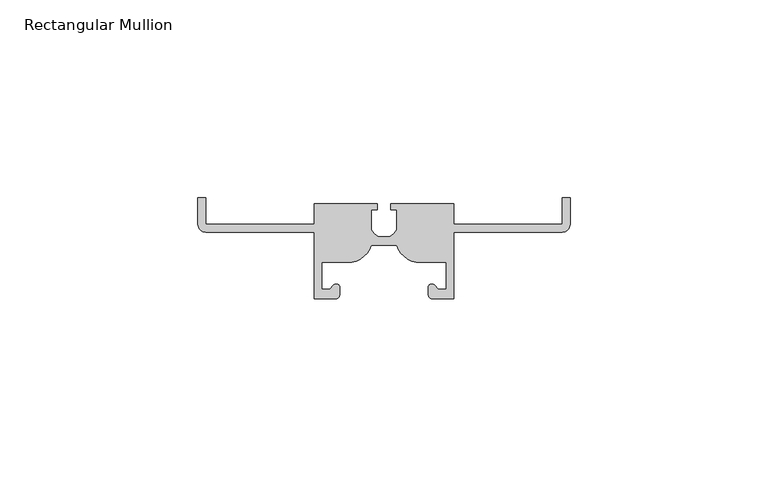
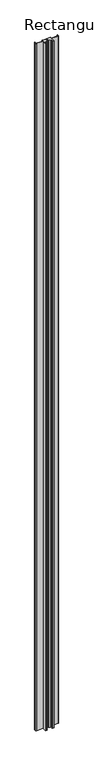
"""IFC4 building model written with IfcOpenShell, lengths in millimetres: member geometry, Rectangular Mullion : LD.0240_renson."""

from ifc_helpers import new_model, si_unit, point, frame, frame_2d, origin, place, context, project, spatial, polyline, circle_curve, trimmed, segment, composite_curve, outline, extrude, source, transform, mapped, element, save


def rectangular_mullion_af4e7430(model_context):
    return source(origin(), model_context, "Body", "SweptSolid", [
        extrude(outline(composite_curve([segment(polyline([(-94.0, -7.6257936), (-94.0, -1.0), (-91.9912581, -1.0), (-91.9912581, -7.611542), (-64.6599764, -7.611542), (-64.6599764, -2.5065082), (-48.6945192, -2.5065082), (-48.6945192, -4.0065082), (-50.1741489, -4.0065082), (-50.1741489, -9.0065082)]), True, "CONTINUOUS"), segment(trimmed(circle_curve(frame_2d((-47.0039792, -7.6048296)), 3.4662197), [point((-50.1741489, -9.0065082))], [point((-48.4056577, -10.7749993))], True, "CARTESIAN"), True, "CONTINUOUS"), segment(polyline([(-48.4056577, -10.7749993), (-45.5943423, -10.7749993)]), True, "CONTINUOUS"), segment(trimmed(circle_curve(frame_2d((-46.9960208, -7.6048296)), 3.4662197), [point((-45.5943423, -10.7749993))], [point((-43.8258511, -9.0065082))], True, "CARTESIAN"), True, "CONTINUOUS"), segment(polyline([(-43.8258511, -9.0065082), (-43.8258511, -4.0065082), (-45.3054808, -4.0065082), (-45.3054808, -2.5065082), (-29.3400236, -2.5065082), (-29.3400236, -7.611542), (-2.0087419, -7.611542), (-2.0087419, -1.0), (0.0, -1.0), (0.0, -7.6257936)]), True, "CONTINUOUS"), segment(trimmed(circle_curve(frame_2d((-2.0087419, -7.6257936)), 2.0087419), [point((0.0, -7.6257936))], [point((-2.0087419, -9.6345355))], False, "CARTESIAN"), True, "CONTINUOUS"), segment(polyline([(-2.0087419, -9.6345355), (-29.3400236, -9.6345355), (-29.3400236, -26.5), (-34.6531539, -26.5)]), True, "CONTINUOUS"), segment(trimmed(circle_curve(frame_2d((-34.6531539, -25.3135005)), 1.1864995), [point((-34.6531539, -26.5))], [point((-35.8396534, -25.3135005))], False, "CARTESIAN"), True, "CONTINUOUS"), segment(polyline([(-35.8396534, -25.3135005), (-35.8396534, -23.3009057)]), True, "CONTINUOUS"), segment(trimmed(circle_curve(frame_2d((-34.8772851, -23.8515635)), 1.1087726), [point((-35.8396534, -23.3009057))], [point((-34.1385729, -23.0247134))], False, "CARTESIAN"), True, "CONTINUOUS"), segment(polyline([(-34.1385729, -23.0247134), (-33.2490245, -24.1232143), (-31.3265874, -24.1232143), (-31.3265874, -17.2531745), (-38.8631802, -17.2531745)]), True, "CONTINUOUS"), segment(trimmed(circle_curve(frame_2d((-37.632073, -10.8255058)), 6.5445053), [point((-38.8631802, -17.2531745))], [point((-43.8258511, -12.9391905))], False, "CARTESIAN"), True, "CONTINUOUS"), segment(polyline([(-43.8258511, -12.9391905), (-50.1741489, -12.9391905)]), True, "CONTINUOUS"), segment(trimmed(circle_curve(frame_2d((-56.367927, -10.8255058)), 6.5445053), [point((-50.1741489, -12.9391905))], [point((-55.1368198, -17.2531745))], False, "CARTESIAN"), True, "CONTINUOUS"), segment(polyline([(-55.1368198, -17.2531745), (-62.6734126, -17.2531745), (-62.6734126, -24.1232143), (-60.7509755, -24.1232143), (-59.8614271, -23.0247134)]), True, "CONTINUOUS"), segment(trimmed(circle_curve(frame_2d((-59.1227149, -23.8515635)), 1.1087726), [point((-59.8614271, -23.0247134))], [point((-58.1603466, -23.3009057))], False, "CARTESIAN"), True, "CONTINUOUS"), segment(polyline([(-58.1603466, -23.3009057), (-58.1603466, -25.3135005)]), True, "CONTINUOUS"), segment(trimmed(circle_curve(frame_2d((-59.3468461, -25.3135005)), 1.1864995), [point((-58.1603466, -25.3135005))], [point((-59.3468461, -26.5))], False, "CARTESIAN"), True, "CONTINUOUS"), segment(polyline([(-59.3468461, -26.5), (-64.6599764, -26.5), (-64.6599764, -9.6345355), (-91.9912581, -9.6345355)]), True, "CONTINUOUS"), segment(trimmed(circle_curve(frame_2d((-91.9912581, -7.6257936)), 2.0087419), [point((-91.9912581, -9.6345355))], [point((-94.0, -7.6257936))], False, "CARTESIAN"), True, "CONTINUOUS")], self_intersect=False)), frame((0.0, 0.0, -3000.0), z_axis=(0.0, 0.0, 1.0), x_axis=(1.0, 0.0, 0.0)), (0.0, 0.0, 1.0), 3000.0),
    ])


if __name__ == "__main__":
    model = new_model("IFC4")
    model_context = context("Model", 3, world=origin())
    ifc_project = project(units=[si_unit("LENGTHUNIT", "METRE", prefix="MILLI")], contexts=[model_context])
    site = spatial("IfcSite", under=ifc_project)
    building = spatial("IfcBuilding", under=site)
    placement = place(None, origin())
    rectangular_mullion_shape = rectangular_mullion_af4e7430(model_context)
    element("IfcMember", 1, ObjectType="Rectangular Mullion : LD.0240_renson", at=placement, inside=building, context=model_context, shape_type="MappedRepresentation", body=[
        mapped(rectangular_mullion_shape, transform((0.0, 0.0, 0.0), x_axis=(1.0, 0.0, 0.0), y_axis=(0.0, 1.0, 0.0), z_axis=(0.0, 0.0, 1.0))),
    ])
    save(model, "model.ifc")
